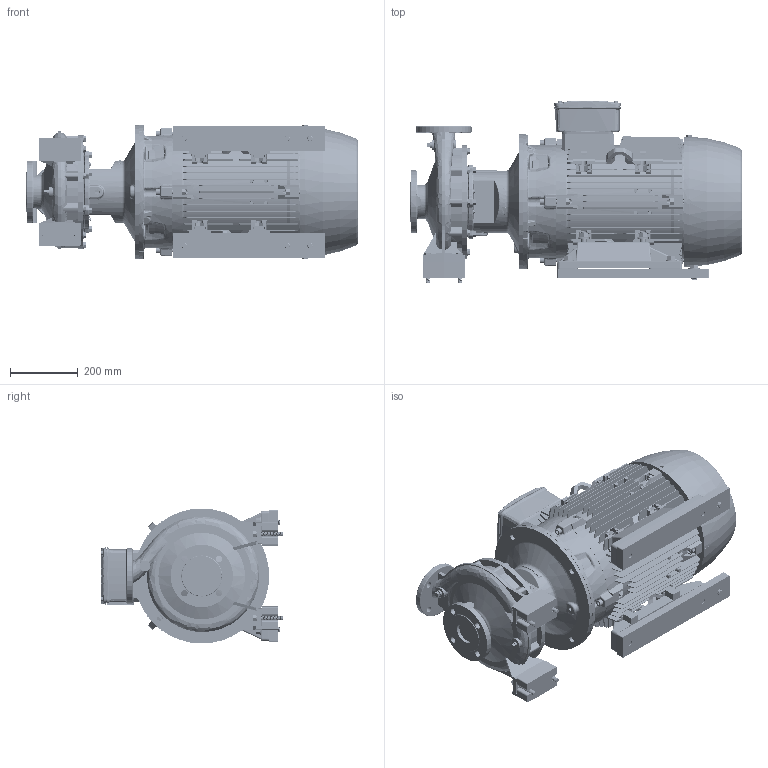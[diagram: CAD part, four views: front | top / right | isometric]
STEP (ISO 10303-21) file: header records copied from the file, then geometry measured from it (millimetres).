
FILE_DESCRIPTION (( 'STEP AP214' ), '1' );
FILE_NAME ('GSD2 50-250_30.0 & 37.0_(200ML)_W21.STEP', '2026-07-07T04:20:51', ( '' ), ( '' ), 'SwSTEP 2.0', 'SolidWorks 2024', '' );
FILE_SCHEMA (( 'AUTOMOTIVE_DESIGN' ));
Length unit declared in the file: millimetre
Products named in the file (14): 50-250-200M_L; GSD2  50-250_30.0 & 37.0_(200ML)_W21; Parametric Nut_M12; CGS11-5311_2_3_4_5_CGS11-5311; Parametric Stud Bolt_SFSK-AB299; Parametric bolt and washer_SFT-A359B; Parametric bolt_SFT-A353B; Parametric bolt_SFT-A359B; 80x25 - CGSDA-5271; 200M_L ALIE3_W21T_B35; CGS11-5311_2_3_4_5_CGS11-5312; Parametric Flat Washer_M16; Parametric Flat Washer_M12; Parametric bolt and washer_SFT-A355B
Assembly tree (30 placements, depth 3):
  GSD2  50-250_30.0 & 37.0_(200ML)_W21
    50-250-200M_L
    CGS11-5311_2_3_4_5_CGS11-5312  x2
    CGS11-5311_2_3_4_5_CGS11-5311  x2
    80x25 - CGSDA-5271  x2
    Parametric Stud Bolt_SFSK-AB299  x4
    Parametric Flat Washer_M12  x4
    Parametric Nut_M12  x4
    Parametric bolt and washer_SFT-A355B  x2
      Parametric bolt_SFT-A353B
      Parametric Flat Washer_M16
    200M_L ALIE3_W21T_B35
    Parametric bolt and washer_SFT-A359B  x4
      Parametric bolt_SFT-A359B
      Parametric Flat Washer_M16
Bounding box: 983.8 x 541.4 x 400 mm (x, y, z)
Volume: 81619525.7 mm3; surface area: 4461445.2 mm2
Topology: 62 solids, 73 shells, 8043 faces, 20950 edges, 13494 vertices
Faces by surface type: plane 4402, cylinder 1761, bspline 979, cone 666, torus 231, sphere 4
Entity records: 296365 total; most frequent: CARTESIAN_POINT 129070, ORIENTED_EDGE 37380, DIRECTION 30268, EDGE_CURVE 18690, VERTEX_POINT 12096, LINE 11256, VECTOR 11256, AXIS2_PLACEMENT_3D 9506
